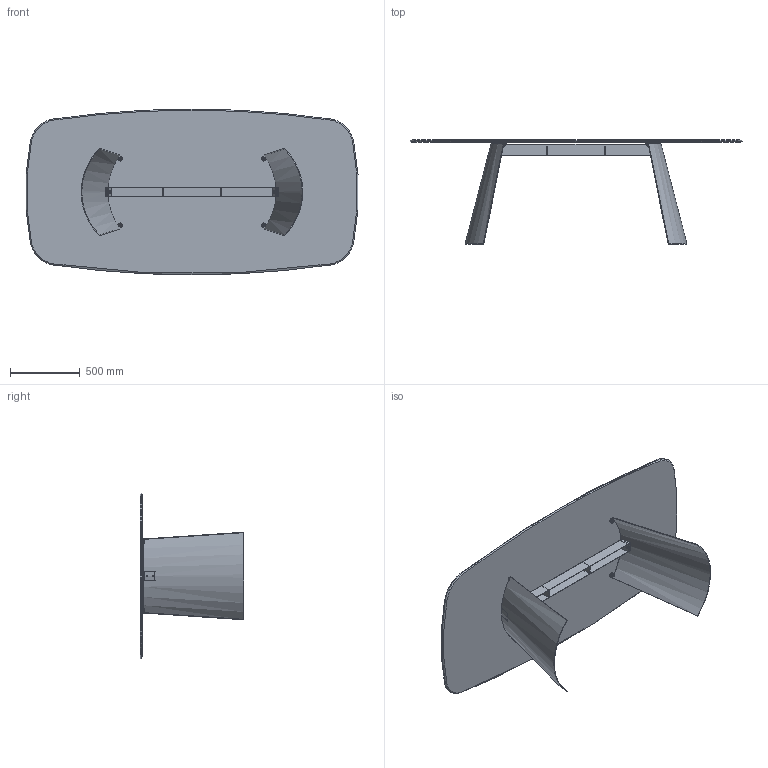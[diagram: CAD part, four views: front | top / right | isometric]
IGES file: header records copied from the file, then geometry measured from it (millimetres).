
Start section: SolidWorks IGES file using analytic representation for surfaces
Global section: file name: Y:\eforma\TECNICO\SOLIDWORKS\E-FORMA\1-TAVOLI\DORIAN\02 parts-rev 01\DN42C.IGS; native system: SolidWorks 2022; preprocessor: SolidWorks 2022; author: eforma.tech; date: 240807.170936; units: millimetre
Bounding box: 2382.15 x 746 x 1190 mm (x, y, z)
Volume: 47509146.3 mm3; surface area: 13107008.4 mm2
Topology: 47 solids, 47 shells, 603 faces, 1391 edges, 882 vertices
Faces by surface type: revolution 335, plane 250, bspline 18
